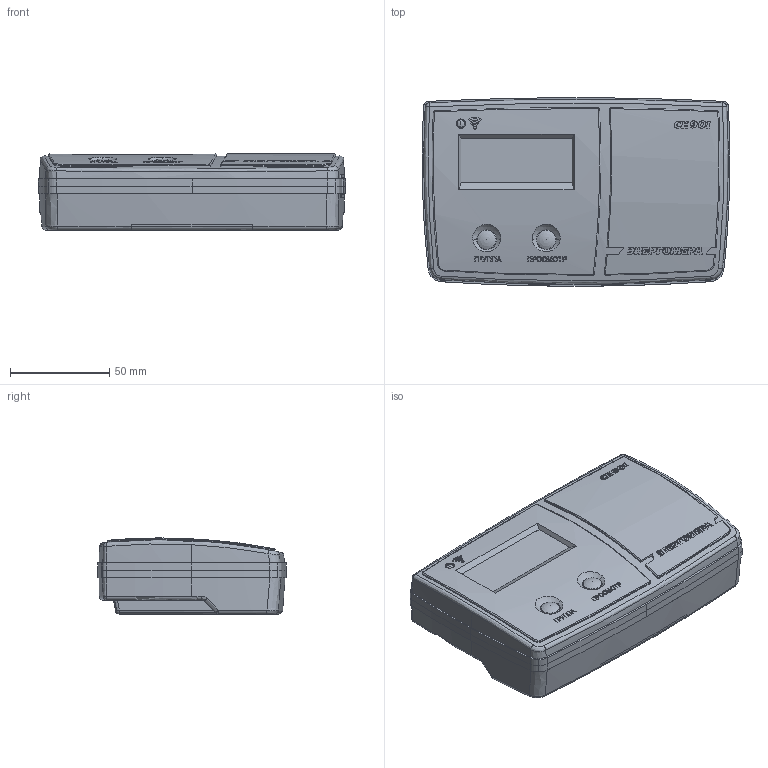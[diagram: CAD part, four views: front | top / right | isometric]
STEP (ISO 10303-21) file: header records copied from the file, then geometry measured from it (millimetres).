
FILE_DESCRIPTION (( 'STEP AP214' ), '1' );
FILE_NAME ('CE901.STEP', '2025-02-12T10:13:18', ( '' ), ( '' ), 'SwSTEP 2.0', 'SolidWorks 2019', '' );
FILE_SCHEMA (( 'AUTOMOTIVE_DESIGN' ));
Length unit declared in the file: millimetre
Products named in the file (1): CE901
Bounding box: 155 x 95 x 38.3 mm (x, y, z)
Volume: 93893.9 mm3; surface area: 101156.9 mm2
Topology: 6 solids, 6 shells, 1606 faces, 4552 edges, 3016 vertices
Faces by surface type: plane 1005, cylinder 428, cone 64, bspline 52, sphere 35, torus 22
Entity records: 67980 total; most frequent: CARTESIAN_POINT 30066, ORIENTED_EDGE 9088, DIRECTION 6676, EDGE_CURVE 4544, VERTEX_POINT 3014, AXIS2_PLACEMENT_3D 2265, LINE 2146, VECTOR 2146
